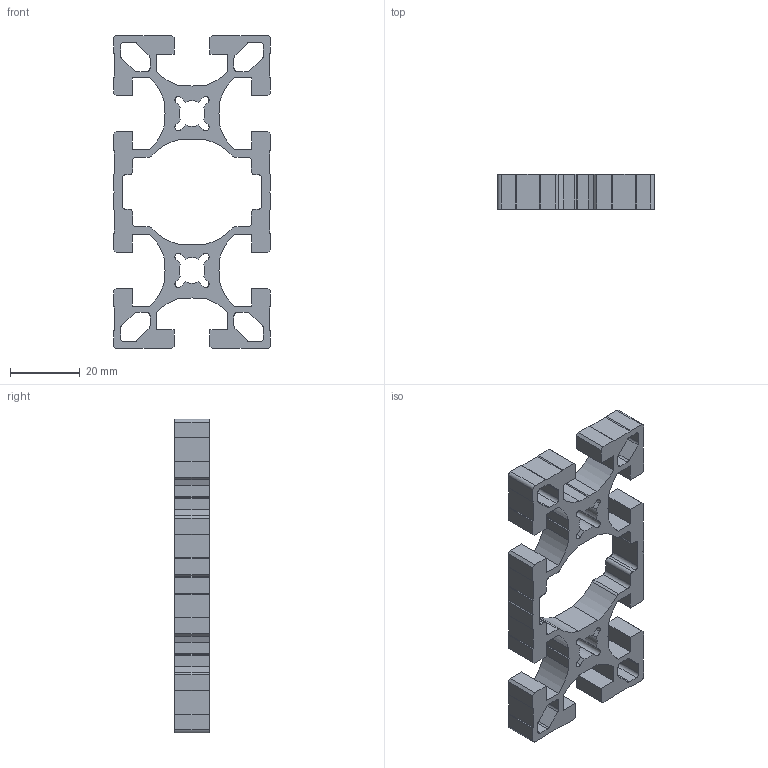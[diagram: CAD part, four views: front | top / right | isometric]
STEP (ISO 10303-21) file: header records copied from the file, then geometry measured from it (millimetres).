
FILE_DESCRIPTION((''),'2;1');
FILE_NAME('PR045090P','2002-12-27T',('Lipro doo'),('Lipro d.o.o.'),'PRO/ENGINEER BY PARAMETRIC TECHNOLOGY CORPORATION, 2001150','PRO/ENGINEER BY PARAMETRIC TECHNOLOGY CORPORATION, 2001150','');
FILE_SCHEMA(('CONFIG_CONTROL_DESIGN'));
Length unit declared in the file: millimetre
Products named in the file (1): PR045090P
Bounding box: 45 x 10 x 90 mm (x, y, z)
Volume: 14491.9 mm3; surface area: 11378.7 mm2
Topology: 1 solids, 1 shells, 270 faces, 804 edges, 536 vertices
Faces by surface type: plane 194, cylinder 76
Entity records: 9086 total; most frequent: CARTESIAN_POINT 1610, ORIENTED_EDGE 1608, DIRECTION 1496, EDGE_CURVE 804, VECTOR 652, LINE 652, VERTEX_POINT 536, AXIS2_PLACEMENT_3D 422
